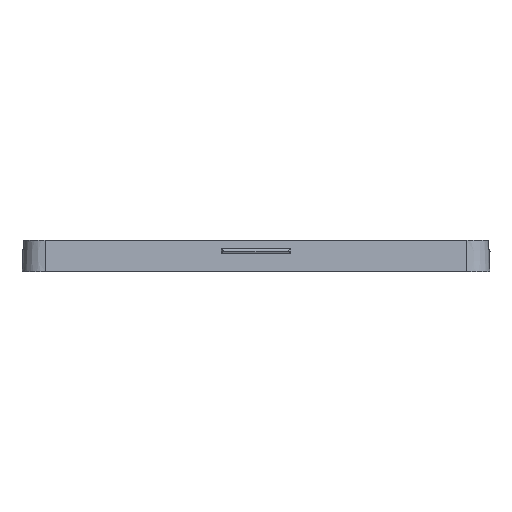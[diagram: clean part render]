
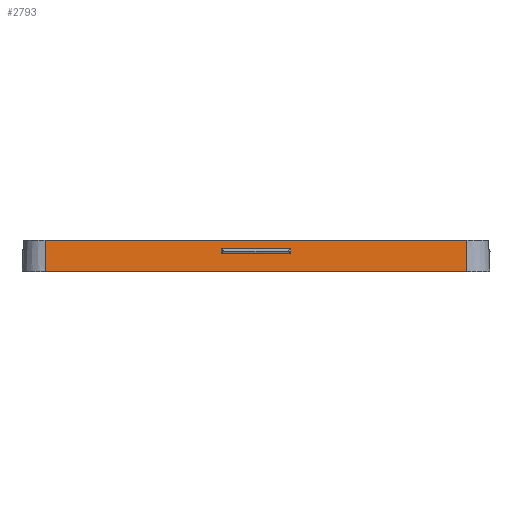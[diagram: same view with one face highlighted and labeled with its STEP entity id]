
A CAD part, front view. The second image highlights one B-rep face of the part: STEP entity #2793.
In plain terms, the highlighted planar face has unit normal (0, -0.999, 0.052).
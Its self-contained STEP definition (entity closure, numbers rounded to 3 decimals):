
#110 = DIRECTION ( 'NONE',  ( 0., -0.052, -0.999 ) ) ;
#158 = CARTESIAN_POINT ( 'NONE',  ( 36.5, -40.5, 0. ) ) ;
#180 = LINE ( 'NONE', #5111, #3829 ) ;
#323 = EDGE_CURVE ( 'NONE', #1854, #5738, #2396, .T. ) ;
#361 = EDGE_CURVE ( 'NONE', #5227, #2614, #4211, .T. ) ;
#510 = CARTESIAN_POINT ( 'NONE',  ( 36.5, -40.5, 0. ) ) ;
#588 = VERTEX_POINT ( 'NONE', #901 ) ;
#722 = DIRECTION ( 'NONE',  ( -1., 0., 0. ) ) ;
#788 = ORIENTED_EDGE ( 'NONE', *, *, #3297, .T. ) ;
#820 = VERTEX_POINT ( 'NONE', #5200 ) ;
#901 = CARTESIAN_POINT ( 'NONE',  ( 6., -40.332, 3.203 ) ) ;
#932 = VECTOR ( 'NONE', #110, 1000. ) ;
#964 = VECTOR ( 'NONE', #5419, 1000. ) ;
#986 = DIRECTION ( 'NONE',  ( 0., -0.999, 0.052 ) ) ;
#1113 = DIRECTION ( 'NONE',  ( 1., 0., 0. ) ) ;
#1454 = EDGE_CURVE ( 'NONE', #4171, #820, #3713, .T. ) ;
#1456 = FACE_BOUND ( 'NONE', #3882, .T. ) ;
#1457 = ORIENTED_EDGE ( 'NONE', *, *, #1454, .T. ) ;
#1538 = LINE ( 'NONE', #2856, #5049 ) ;
#1577 = CARTESIAN_POINT ( 'NONE',  ( 6., -40.29, 4.002 ) ) ;
#1649 = ORIENTED_EDGE ( 'NONE', *, *, #361, .F. ) ;
#1752 = EDGE_CURVE ( 'NONE', #1854, #4171, #1807, .T. ) ;
#1807 = LINE ( 'NONE', #2719, #4142 ) ;
#1854 = VERTEX_POINT ( 'NONE', #2907 ) ;
#2396 = LINE ( 'NONE', #4737, #4051 ) ;
#2614 = VERTEX_POINT ( 'NONE', #4381 ) ;
#2719 = CARTESIAN_POINT ( 'NONE',  ( -36.5, -40.5, 0. ) ) ;
#2793 = ADVANCED_FACE ( 'NONE', ( #1456, #3272 ), #3741, .T. ) ;
#2851 = DIRECTION ( 'NONE',  ( 0., 0.052, 0.999 ) ) ;
#2856 = CARTESIAN_POINT ( 'NONE',  ( 6., -40.332, 3.203 ) ) ;
#2865 = ORIENTED_EDGE ( 'NONE', *, *, #5705, .T. ) ;
#2884 = DIRECTION ( 'NONE',  ( -1., 0., 0. ) ) ;
#2907 = CARTESIAN_POINT ( 'NONE',  ( -36.5, -40.212, 5.5 ) ) ;
#2921 = ORIENTED_EDGE ( 'NONE', *, *, #323, .F. ) ;
#3002 = EDGE_LOOP ( 'NONE', ( #1457, #3208, #2921, #5356 ) ) ;
#3156 = DIRECTION ( 'NONE',  ( 0., -0.052, -0.999 ) ) ;
#3161 = VECTOR ( 'NONE', #2851, 1000. ) ;
#3208 = ORIENTED_EDGE ( 'NONE', *, *, #4366, .F. ) ;
#3272 = FACE_OUTER_BOUND ( 'NONE', #3002, .T. ) ;
#3297 = EDGE_CURVE ( 'NONE', #588, #5329, #1538, .T. ) ;
#3621 = DIRECTION ( 'NONE',  ( 0., -0.052, -0.999 ) ) ;
#3713 = LINE ( 'NONE', #158, #964 ) ;
#3739 = AXIS2_PLACEMENT_3D ( 'NONE', #510, #986, #3621 ) ;
#3741 = PLANE ( 'NONE',  #3739 ) ;
#3829 = VECTOR ( 'NONE', #4699, 1000. ) ;
#3882 = EDGE_LOOP ( 'NONE', ( #1649, #4236, #788, #2865 ) ) ;
#4051 = VECTOR ( 'NONE', #1113, 1000. ) ;
#4142 = VECTOR ( 'NONE', #3156, 1000. ) ;
#4171 = VERTEX_POINT ( 'NONE', #4638 ) ;
#4187 = EDGE_CURVE ( 'NONE', #588, #5227, #180, .T. ) ;
#4211 = LINE ( 'NONE', #1577, #5368 ) ;
#4236 = ORIENTED_EDGE ( 'NONE', *, *, #4187, .F. ) ;
#4366 = EDGE_CURVE ( 'NONE', #5738, #820, #5012, .T. ) ;
#4381 = CARTESIAN_POINT ( 'NONE',  ( -6., -40.29, 4.002 ) ) ;
#4453 = CARTESIAN_POINT ( 'NONE',  ( 36.5, -40.5, 0. ) ) ;
#4638 = CARTESIAN_POINT ( 'NONE',  ( -36.5, -40.5, 0. ) ) ;
#4699 = DIRECTION ( 'NONE',  ( 0., 0.052, 0.999 ) ) ;
#4737 = CARTESIAN_POINT ( 'NONE',  ( -36.5, -40.212, 5.5 ) ) ;
#4993 = CARTESIAN_POINT ( 'NONE',  ( 6., -40.29, 4.002 ) ) ;
#5012 = LINE ( 'NONE', #4453, #932 ) ;
#5049 = VECTOR ( 'NONE', #2884, 1000. ) ;
#5105 = LINE ( 'NONE', #5131, #3161 ) ;
#5111 = CARTESIAN_POINT ( 'NONE',  ( 6., -40.29, 4.002 ) ) ;
#5131 = CARTESIAN_POINT ( 'NONE',  ( -6., -40.29, 4.002 ) ) ;
#5141 = CARTESIAN_POINT ( 'NONE',  ( -6., -40.332, 3.203 ) ) ;
#5200 = CARTESIAN_POINT ( 'NONE',  ( 36.5, -40.5, 0. ) ) ;
#5227 = VERTEX_POINT ( 'NONE', #4993 ) ;
#5329 = VERTEX_POINT ( 'NONE', #5141 ) ;
#5356 = ORIENTED_EDGE ( 'NONE', *, *, #1752, .T. ) ;
#5368 = VECTOR ( 'NONE', #722, 1000. ) ;
#5419 = DIRECTION ( 'NONE',  ( 1., 0., 0. ) ) ;
#5705 = EDGE_CURVE ( 'NONE', #5329, #2614, #5105, .T. ) ;
#5738 = VERTEX_POINT ( 'NONE', #5774 ) ;
#5774 = CARTESIAN_POINT ( 'NONE',  ( 36.5, -40.212, 5.5 ) ) ;
